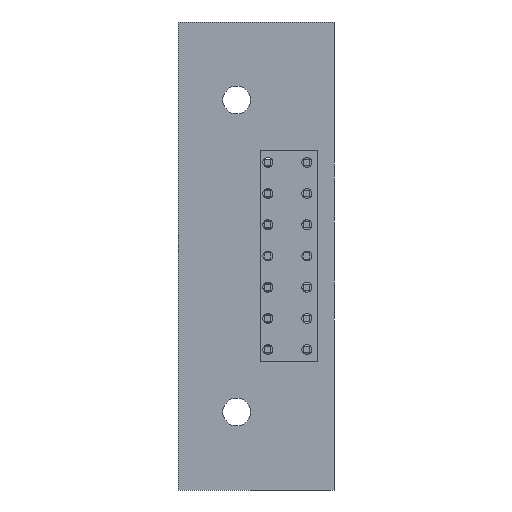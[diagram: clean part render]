
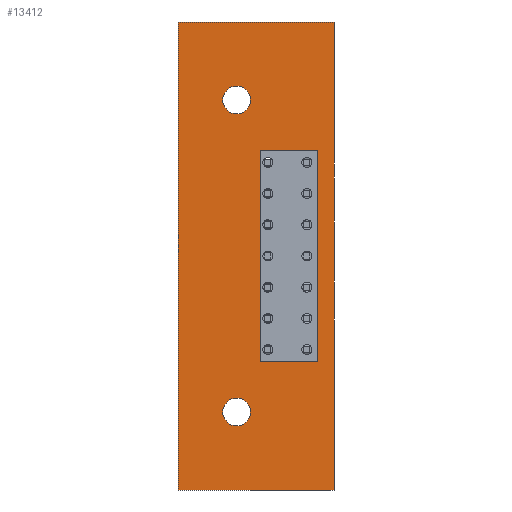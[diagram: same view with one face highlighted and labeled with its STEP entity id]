
A CAD part, front view. The second image highlights one B-rep face of the part: STEP entity #13412.
In plain terms, the highlighted planar face has unit normal (0, -1, 0).
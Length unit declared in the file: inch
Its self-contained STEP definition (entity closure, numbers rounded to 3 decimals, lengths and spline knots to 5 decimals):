
#18 = VECTOR ( 'NONE', #1086, 39.37008 ) ;
#23 = CARTESIAN_POINT ( 'NONE',  ( 0.448, -0.25, -0.339 ) ) ;
#299 = CARTESIAN_POINT ( 'NONE',  ( 0.264, -0.25, -0.339 ) ) ;
#437 = LINE ( 'NONE', #1028, #18 ) ;
#497 = EDGE_CURVE ( 'NONE', #3116, #6645, #437, .T. ) ;
#517 = AXIS2_PLACEMENT_3D ( 'NONE', #5220, #4923, #4773 ) ;
#563 = AXIS2_PLACEMENT_3D ( 'NONE', #7233, #6997, #6307 ) ;
#643 = AXIS2_PLACEMENT_3D ( 'NONE', #7130, #7030, #6795 ) ;
#668 = VERTEX_POINT ( 'NONE', #299 ) ;
#706 = ORIENTED_EDGE ( 'NONE', *, *, #2552, .T. ) ;
#728 = VERTEX_POINT ( 'NONE', #23 ) ;
#797 = ORIENTED_EDGE ( 'NONE', *, *, #2570, .F. ) ;
#815 = CARTESIAN_POINT ( 'NONE',  ( 0.5, -0.25, 0.75 ) ) ;
#825 = ORIENTED_EDGE ( 'NONE', *, *, #497, .F. ) ;
#833 = ORIENTED_EDGE ( 'NONE', *, *, #2760, .T. ) ;
#853 = CARTESIAN_POINT ( 'NONE',  ( 0.264, -0.25, -0.339 ) ) ;
#954 = ORIENTED_EDGE ( 'NONE', *, *, #3415, .T. ) ;
#1028 = CARTESIAN_POINT ( 'NONE',  ( 0.5, -0.25, -0.75 ) ) ;
#1032 = ORIENTED_EDGE ( 'NONE', *, *, #3418, .T. ) ;
#1056 = ORIENTED_EDGE ( 'NONE', *, *, #1062, .F. ) ;
#1062 = EDGE_CURVE ( 'NONE', #728, #2270, #12652, .T. ) ;
#1070 = ORIENTED_EDGE ( 'NONE', *, *, #3319, .F. ) ;
#1086 = DIRECTION ( 'NONE',  ( -1., 0., 0. ) ) ;
#1100 = ORIENTED_EDGE ( 'NONE', *, *, #3583, .F. ) ;
#1118 = ORIENTED_EDGE ( 'NONE', *, *, #2853, .F. ) ;
#1486 = FACE_OUTER_BOUND ( 'NONE', #13217, .T. ) ;
#1937 = CARTESIAN_POINT ( 'NONE',  ( 0., -0.25, -0.75 ) ) ;
#2270 = VERTEX_POINT ( 'NONE', #13087 ) ;
#2552 = EDGE_CURVE ( 'NONE', #11867, #9953, #5945, .T. ) ;
#2570 = EDGE_CURVE ( 'NONE', #11867, #3116, #5785, .T. ) ;
#2760 = EDGE_CURVE ( 'NONE', #9953, #6645, #4555, .T. ) ;
#2853 = EDGE_CURVE ( 'NONE', #668, #728, #3698, .T. ) ;
#3116 = VERTEX_POINT ( 'NONE', #5260 ) ;
#3319 = EDGE_CURVE ( 'NONE', #2270, #4324, #11780, .T. ) ;
#3415 = EDGE_CURVE ( 'NONE', #14095, #14095, #13931, .T. ) ;
#3418 = EDGE_CURVE ( 'NONE', #11378, #11378, #11094, .T. ) ;
#3583 = EDGE_CURVE ( 'NONE', #4324, #668, #11443, .T. ) ;
#3698 = LINE ( 'NONE', #853, #3870 ) ;
#3798 = DIRECTION ( 'NONE',  ( 0., 0., -1. ) ) ;
#3870 = VECTOR ( 'NONE', #12614, 39.37008 ) ;
#3947 = CARTESIAN_POINT ( 'NONE',  ( 0.188, -0.25, -0.4555 ) ) ;
#4324 = VERTEX_POINT ( 'NONE', #12829 ) ;
#4451 = VECTOR ( 'NONE', #3798, 39.37008 ) ;
#4555 = LINE ( 'NONE', #4901, #4451 ) ;
#4588 = FACE_BOUND ( 'NONE', #13200, .T. ) ;
#4773 = DIRECTION ( 'NONE',  ( 0., 0., 1. ) ) ;
#4901 = CARTESIAN_POINT ( 'NONE',  ( 0., -0.25, -0.75 ) ) ;
#4923 = DIRECTION ( 'NONE',  ( 0., 1., 0. ) ) ;
#5220 = CARTESIAN_POINT ( 'NONE',  ( 0.188, -0.25, -0.5 ) ) ;
#5260 = CARTESIAN_POINT ( 'NONE',  ( 0.5, -0.25, -0.75 ) ) ;
#5601 = DIRECTION ( 'NONE',  ( -1., 0., 0. ) ) ;
#5679 = VECTOR ( 'NONE', #9636, 39.37008 ) ;
#5785 = LINE ( 'NONE', #10772, #5679 ) ;
#5847 = VECTOR ( 'NONE', #14176, 39.37008 ) ;
#5945 = LINE ( 'NONE', #11146, #5847 ) ;
#6052 = VECTOR ( 'NONE', #5601, 39.37008 ) ;
#6307 = DIRECTION ( 'NONE',  ( 0., 0., 1. ) ) ;
#6645 = VERTEX_POINT ( 'NONE', #1937 ) ;
#6795 = DIRECTION ( 'NONE',  ( 0., 0., 1. ) ) ;
#6997 = DIRECTION ( 'NONE',  ( 0., 1., 0. ) ) ;
#7030 = DIRECTION ( 'NONE',  ( 0., 1., 0. ) ) ;
#7130 = CARTESIAN_POINT ( 'NONE',  ( 0.5, -0.25, -0.75 ) ) ;
#7233 = CARTESIAN_POINT ( 'NONE',  ( 0.188, -0.25, 0.5 ) ) ;
#7480 = CARTESIAN_POINT ( 'NONE',  ( 0.264, -0.25, 0.339 ) ) ;
#7520 = FACE_BOUND ( 'NONE', #13053, .T. ) ;
#7694 = CARTESIAN_POINT ( 'NONE',  ( 0.448, -0.25, 0.339 ) ) ;
#7893 = PLANE ( 'NONE',  #643 ) ;
#7985 = CARTESIAN_POINT ( 'NONE',  ( 0., -0.25, 0.75 ) ) ;
#9636 = DIRECTION ( 'NONE',  ( 0., 0., -1. ) ) ;
#9953 = VERTEX_POINT ( 'NONE', #7985 ) ;
#10521 = CARTESIAN_POINT ( 'NONE',  ( 0.188, -0.25, 0.5445 ) ) ;
#10772 = CARTESIAN_POINT ( 'NONE',  ( 0.5, -0.25, -0.75 ) ) ;
#11094 = CIRCLE ( 'NONE', #517, 0.0445 ) ;
#11146 = CARTESIAN_POINT ( 'NONE',  ( 0.5, -0.25, 0.75 ) ) ;
#11378 = VERTEX_POINT ( 'NONE', #3947 ) ;
#11443 = LINE ( 'NONE', #11961, #13039 ) ;
#11605 = DIRECTION ( 'NONE',  ( 0., 0., -1. ) ) ;
#11780 = LINE ( 'NONE', #7480, #6052 ) ;
#11867 = VERTEX_POINT ( 'NONE', #815 ) ;
#11961 = CARTESIAN_POINT ( 'NONE',  ( 0.264, -0.25, 0.339 ) ) ;
#11978 = DIRECTION ( 'NONE',  ( 0., 0., 1. ) ) ;
#12503 = VECTOR ( 'NONE', #11978, 39.37008 ) ;
#12614 = DIRECTION ( 'NONE',  ( 1., 0., 0. ) ) ;
#12652 = LINE ( 'NONE', #7694, #12503 ) ;
#12817 = FACE_BOUND ( 'NONE', #13041, .T. ) ;
#12829 = CARTESIAN_POINT ( 'NONE',  ( 0.264, -0.25, 0.339 ) ) ;
#13039 = VECTOR ( 'NONE', #11605, 39.37008 ) ;
#13041 = EDGE_LOOP ( 'NONE', ( #954 ) ) ;
#13053 = EDGE_LOOP ( 'NONE', ( #1118, #1100, #1070, #1056 ) ) ;
#13087 = CARTESIAN_POINT ( 'NONE',  ( 0.448, -0.25, 0.339 ) ) ;
#13200 = EDGE_LOOP ( 'NONE', ( #1032 ) ) ;
#13217 = EDGE_LOOP ( 'NONE', ( #833, #825, #797, #706 ) ) ;
#13412 = ADVANCED_FACE ( 'NONE', ( #7520, #4588, #12817, #1486 ), #7893, .F. ) ;
#13931 = CIRCLE ( 'NONE', #563, 0.0445 ) ;
#14095 = VERTEX_POINT ( 'NONE', #10521 ) ;
#14176 = DIRECTION ( 'NONE',  ( -1., 0., 0. ) ) ;
